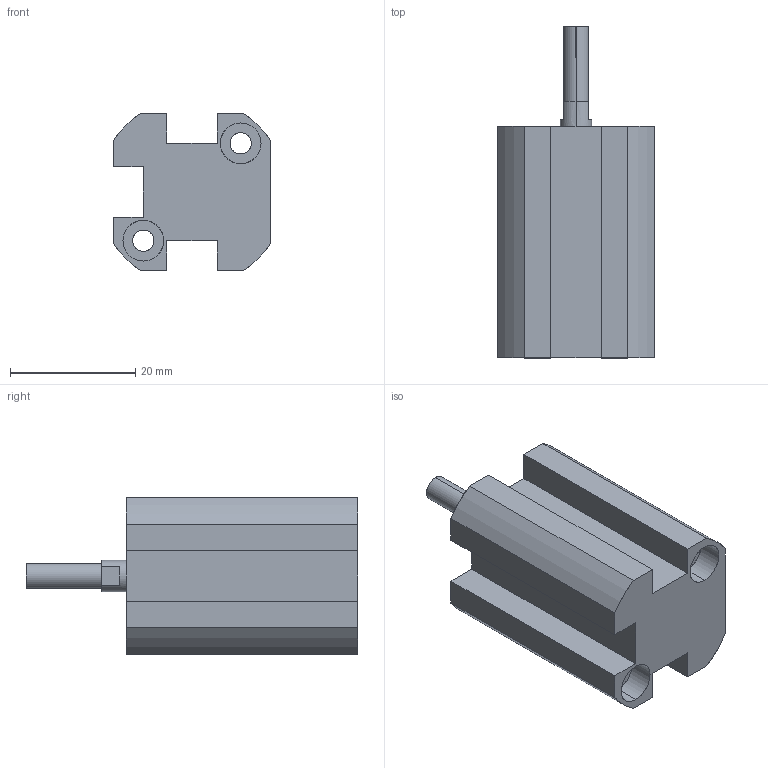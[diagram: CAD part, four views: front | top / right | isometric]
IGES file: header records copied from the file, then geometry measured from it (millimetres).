
Start section: SolidWorks IGES file using analytic representation for surfaces
Global section: file name: C:\Users\Toshiba\Desktop\XG#M2-10-10.IGS; native system: SolidWorks 2014; preprocessor: SolidWorks 2014; author: Toshiba; date: 160524.100943; units: millimetre
Bounding box: 25 x 53 x 25 mm (x, y, z)
Surface area: 6947.1 mm2 (no closed solid volume)
Topology: 0 solids, 0 shells, 77 faces, 1217 edges, 1213 vertices
Faces by surface type: revolution 43, bspline 34
